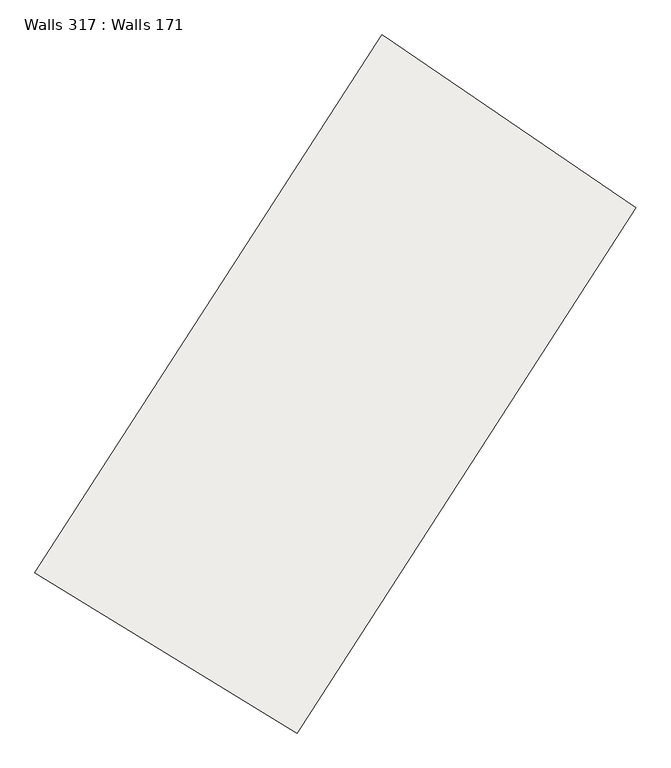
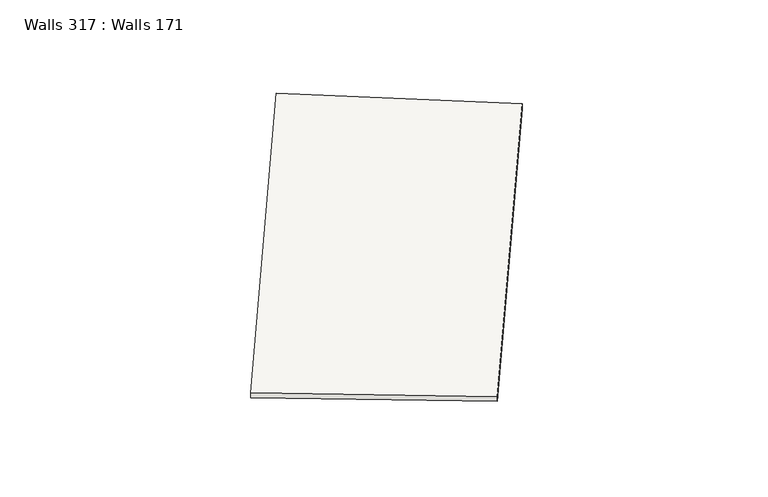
"""IFC4 building model written with IfcOpenShell, lengths in millimetres: slab geometry, Walls 317 : Walls 171."""

import ifcopenshell
import ifcopenshell.guid

model = None  # the IFC model being written
_history = None  # IfcOwnerHistory: only IFC2X3 demands one
_inside = {}  # id of a spatial element -> (the spatial element, [elements in it])
_under = {}  # id of a project, library or spatial element -> (it, [spatial elements below it])
_declared = {}  # id of a project -> (the project, [libraries it declares])
_typed = {}  # id of a type object -> (the type object, [elements of that type])
_made_of = {}  # id of a material, layer set ... -> (it, [elements and type objects made of it])


def new_model(schema):
    """Start an empty IFC model of exactly this schema.

    Asked for "IFC4X3", IfcOpenShell would pick the latest addendum, in which some entities
    have other attributes; the version numbers below select the first issue.
    IFC2X3 requires an IfcOwnerHistory on every rooted entity: one is made here for all.
    """
    global model, _history
    if schema == "IFC4X3":
        model = ifcopenshell.file(schema_version=(4, 3, 0, 0))
    else:
        model = ifcopenshell.file(schema=schema)
    _inside.clear()
    _under.clear()
    _declared.clear()
    _typed.clear()
    _made_of.clear()
    _history = None
    if model.schema == "IFC2X3":
        org = make("IfcOrganization", Name="unknown")
        user = make(
            "IfcPersonAndOrganization",
            ThePerson=make("IfcPerson", FamilyName="unknown"),
            TheOrganization=org,
        )
        app = make(
            "IfcApplication",
            ApplicationDeveloper=org,
            Version="unknown",
            ApplicationFullName="unknown",
            ApplicationIdentifier="unknown",
        )
        _history = make(
            "IfcOwnerHistory",
            OwningUser=user,
            OwningApplication=app,
            ChangeAction="ADDED",
            CreationDate=0,
        )
    return model


def make(cls, **values):
    """One entity of the class cls with the attributes given. An attribute that is None is left unset."""
    return model.create_entity(
        cls, **{name: value for name, value in values.items() if value is not None}
    )


def rooted(cls, **values):
    """An entity with a GlobalId (a new one), such as an element, a storey or a relation."""
    return make(cls, GlobalId=ifcopenshell.guid.new(), OwnerHistory=_history, **values)


def si_unit(unit_type, name, prefix=None):
    """IfcSIUnit, for example si_unit("LENGTHUNIT", "METRE", prefix="MILLI")."""
    return make("IfcSIUnit", UnitType=unit_type, Prefix=prefix, Name=name)


def assignment(units):
    """IfcUnitAssignment: the units of a project."""
    return None if units is None else make("IfcUnitAssignment", Units=units)


def point(xyz):
    """IfcCartesianPoint."""
    return None if xyz is None else make("IfcCartesianPoint", Coordinates=xyz)


def direction(xyz):
    """IfcDirection."""
    return None if xyz is None else make("IfcDirection", DirectionRatios=xyz)


def frame(location, z_axis=None, x_axis=None):
    """IfcAxis2Placement3D, a coordinate frame: its origin and axes. An axis left out is left unset."""
    return make(
        "IfcAxis2Placement3D",
        Location=point(location),
        Axis=direction(z_axis),
        RefDirection=direction(x_axis),
    )


def origin():
    """The frame at (0, 0, 0) with its axes left unset."""
    return frame((0.0, 0.0, 0.0))


def place(relative_to, where):
    """IfcLocalPlacement: puts the frame where relative to a parent placement (None: the world)."""
    return make(
        "IfcLocalPlacement", PlacementRelTo=relative_to, RelativePlacement=where
    )


def context(
    kind, dimensions, precision=None, world=None, true_north=None, identifier=None
):
    """IfcGeometricRepresentationContext, for example the 3D "Model" context."""
    return make(
        "IfcGeometricRepresentationContext",
        ContextIdentifier=identifier,
        ContextType=kind,
        CoordinateSpaceDimension=dimensions,
        Precision=precision,
        WorldCoordinateSystem=world,
        TrueNorth=true_north,
    )


def project(units=None, contexts=None):
    """IfcProject with its units and contexts."""
    return rooted(
        "IfcProject",
        Name="project",
        RepresentationContexts=contexts,
        UnitsInContext=assignment(units),
    )


def spatial(cls, under=None, at=None, **own):
    """A site, building, storey or space (cls), placed at a placement, below another one or the project."""
    s = rooted(cls, ObjectPlacement=at, **own)
    if under is not None:
        _under.setdefault(under.id(), (under, []))[1].append(s)
    return s


def shape(context_of_items, identifier, shape_type, items):
    """IfcShapeRepresentation: the items that make up one representation, for example the "Body"."""
    return make(
        "IfcShapeRepresentation",
        ContextOfItems=context_of_items,
        RepresentationIdentifier=identifier,
        RepresentationType=shape_type,
        Items=items,
    )


def source(mapping_origin, context_of_items, identifier, shape_type, items):
    """IfcRepresentationMap: a shape defined once, which mapped items show again and again."""
    return make(
        "IfcRepresentationMap",
        MappingOrigin=mapping_origin,
        MappedRepresentation=shape(context_of_items, identifier, shape_type, items),
    )


def transform(
    local_origin,
    x_axis=None,
    y_axis=None,
    z_axis=None,
    scale=None,
    scale2=None,
    scale3=None,
    uniform=True,
):
    """IfcCartesianTransformationOperator3D, or its non-uniform kind. x_axis, y_axis, z_axis: its Axis1, 2, 3."""
    if uniform:
        return make(
            "IfcCartesianTransformationOperator3D",
            Axis1=direction(x_axis),
            Axis2=direction(y_axis),
            LocalOrigin=point(local_origin),
            Scale=scale,
            Axis3=direction(z_axis),
        )
    return make(
        "IfcCartesianTransformationOperator3DnonUniform",
        Axis1=direction(x_axis),
        Axis2=direction(y_axis),
        LocalOrigin=point(local_origin),
        Scale=scale,
        Axis3=direction(z_axis),
        Scale2=scale2,
        Scale3=scale3,
    )


def mapped(mapping_source, mapping_target):
    """IfcMappedItem: shows the shape of a source again, moved by a transform."""
    return make(
        "IfcMappedItem", MappingSource=mapping_source, MappingTarget=mapping_target
    )


def made_of(thing, what):
    """Note that an element or type object is made of a material, layer set ...; save() writes the relation."""
    if what is not None:
        _made_of.setdefault(what.id(), (what, []))[1].append(thing)
    return thing


def element(
    cls,
    number,
    at=None,
    inside=None,
    cuts=None,
    type_object=None,
    material=None,
    context=None,
    identifier="Body",
    shape_type=None,
    held_by="IfcProductDefinitionShape",
    body=None,
    shapes=None,
    **own,
):
    """One element of the class cls, such as IfcWall. Its Tag is "e" and its number.

    at: its placement. inside: the storey or other place that contains it. cuts: it is an
    opening in that element (IfcRelVoidsElement). A single representation is given by context,
    identifier, shape_type and body (its items); several are given by shapes. held_by: the class
    of the entity that holds the representations. save() writes the other relations.
    """
    e = rooted(cls, Tag="e%d" % number, ObjectPlacement=at, **own)
    if body is not None:
        shapes = [shape(context, identifier, shape_type, body)]
    if shapes is not None:
        e.Representation = make(held_by, Representations=shapes)
    if inside is not None:
        _inside.setdefault(inside.id(), (inside, []))[1].append(e)
    if cuts is not None:
        rooted(
            "IfcRelVoidsElement", RelatingBuildingElement=cuts, RelatedOpeningElement=e
        )
    if type_object is not None:
        _typed.setdefault(type_object.id(), (type_object, []))[1].append(e)
    return made_of(e, material)


def aggregate(whole, parts):
    """IfcRelAggregates: a whole, such as a stair, and the parts it consists of."""
    return rooted("IfcRelAggregates", RelatingObject=whole, RelatedObjects=parts)


def save(model, path):
    """Write the relations noted so far, then the file.

    IfcRelAggregates (storeys below a building ...), IfcRelContainedInSpatialStructure (elements
    in a storey), IfcRelDefinesByType, IfcRelAssociatesMaterial and IfcRelDeclares: one each for
    every whole, place, type object, material and project.
    """
    for whole, parts in _under.values():
        aggregate(whole, parts)
    for where, things in _inside.values():
        rooted(
            "IfcRelContainedInSpatialStructure",
            RelatedElements=things,
            RelatingStructure=where,
        )
    for kind, things in _typed.values():
        rooted("IfcRelDefinesByType", RelatedObjects=things, RelatingType=kind)
    for what, things in _made_of.values():
        rooted("IfcRelAssociatesMaterial", RelatedObjects=things, RelatingMaterial=what)
    for by, libraries in _declared.values():
        rooted("IfcRelDeclares", RelatingContext=by, RelatedDefinitions=libraries)
    model.write(path)


def plane_surface(at):
    """IfcPlane: the flat surface through the origin of the frame at, square to its z axis."""
    return make("IfcPlane", Position=at)


def spline_curve(degree, points, multiplicities, knots, weights=None):
    """IfcBSplineCurveWithKnots; with weights, IfcRationalBSplineCurveWithKnots."""
    own = dict(
        Degree=degree,
        ControlPointsList=[point(p) for p in points],
        CurveForm="UNSPECIFIED",
        ClosedCurve=False,
        SelfIntersect=False,
        KnotMultiplicities=multiplicities,
        Knots=knots,
        KnotSpec="UNSPECIFIED",
    )
    if weights is None:
        return make("IfcBSplineCurveWithKnots", **own)
    return make("IfcRationalBSplineCurveWithKnots", WeightsData=weights, **own)


def spline_surface(u_degree, v_degree, points, u_multiplicities, v_multiplicities, u_knots, v_knots, weights=None):
    """IfcBSplineSurfaceWithKnots; with weights, IfcRationalBSplineSurfaceWithKnots. points: one row for each step in u."""
    own = dict(
        UDegree=u_degree,
        VDegree=v_degree,
        ControlPointsList=[[point(p) for p in row] for row in points],
        SurfaceForm="UNSPECIFIED",
        UClosed=False,
        VClosed=False,
        SelfIntersect=False,
        UMultiplicities=u_multiplicities,
        VMultiplicities=v_multiplicities,
        UKnots=u_knots,
        VKnots=v_knots,
        KnotSpec="UNSPECIFIED",
    )
    if weights is None:
        return make("IfcBSplineSurfaceWithKnots", **own)
    return make("IfcRationalBSplineSurfaceWithKnots", WeightsData=weights, **own)


def advanced_brep(points, edges, surfaces, faces):
    """IfcAdvancedBrep: a solid bounded by faces that lie on surfaces and meet in shared edges.

    An edge is (start, end): straight between two places in points (the first is 0);
    or (start, end, curve); or (start, end, curve, False) where it runs against its curve.
    A face is (place in surfaces, loops), or (place, loops, False) where it looks against
    its surface's normal. A loop lists edges by number (the first is 1), with a minus sign
    where the edge is run from its end to its start. The first loop is the outer one.
    """
    corners = [point(p) for p in points]
    vertices = [make("IfcVertexPoint", VertexGeometry=c) for c in corners]
    made = []
    for start, end, *more in edges:
        made.append(
            make(
                "IfcEdgeCurve",
                EdgeStart=vertices[start],
                EdgeEnd=vertices[end],
                EdgeGeometry=more[0] if more else make("IfcPolyline", Points=[corners[start], corners[end]]),
                SameSense=more[1] if len(more) > 1 else True,
            )
        )
    hull = []
    for where, loops, *sense in faces:
        bounds = []
        for j, loop in enumerate(loops):
            ring = [make("IfcOrientedEdge", EdgeElement=made[abs(k) - 1], Orientation=k > 0) for k in loop]
            bounds.append(
                make(
                    "IfcFaceOuterBound" if j == 0 else "IfcFaceBound",
                    Bound=make("IfcEdgeLoop", EdgeList=ring),
                    Orientation=True,
                )
            )
        hull.append(make("IfcAdvancedFace", Bounds=bounds, FaceSurface=surfaces[where], SameSense=sense[0] if sense else True))
    return make("IfcAdvancedBrep", Outer=make("IfcClosedShell", CfsFaces=hull))


def walls_317_walls_171_85d3402c(model_context):
    return source(origin(), model_context, "Body", "AdvancedBrep", [
        advanced_brep(
        [(211019.6285932, 111578.4626906, 641750.0), (214601.9373096, 109385.9608637, 641750.0), (214601.9373096, 109385.9608637, 641850.0), (211019.6285932, 111578.4626906, 641850.0), (215762.3608845, 118922.8756049, 641860.0), (215762.3608845, 118922.8756049, 641960.0), (219234.5564134, 116559.8567287, 641960.0), (219234.5564134, 116559.8567287, 641860.0)],
        [
            (0, 1),
            (1, 2),
            (2, 3),
            (3, 0),
            (4, 5),
            (5, 6),
            (6, 7),
            (7, 4),
            (5, 3, spline_curve(3, [(215762.3608845, 118922.8756049, 641960.0), (214122.594571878, 116513.419922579, 641923.333333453), (212541.068253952, 114064.329059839, 641886.666666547), (211019.6285932, 111578.4626906, 641850.0)], [4, 4], [0.0, 28.35497250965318])),
            (2, 6, spline_curve(3, [(214601.9373096, 109385.9608637, 641850.0), (216088.053329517, 111814.112259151, 641886.666666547), (217632.860960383, 114206.341974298, 641923.333333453), (219234.5564134, 116559.8567287, 641960.0)], [4, 4], [0.0, 28.35497250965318])),
            (7, 1, spline_curve(3, [(219234.5564134, 116559.8567287, 641860.0), (217632.860960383, 114206.341974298, 641823.333333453), (216088.053329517, 111814.112259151, 641786.666666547), (214601.9373096, 109385.9608637, 641750.0)], [4, 4], [0.0, 28.354972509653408])),
            (0, 4, spline_curve(3, [(211019.6285932, 111578.4626906, 641750.0), (212541.068253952, 114064.329059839, 641786.666666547), (214122.594571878, 116513.419922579, 641823.333333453), (215762.3608845, 118922.8756049, 641860.0)], [4, 4], [0.0, 28.354972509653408])),
        ],
        [
            plane_surface(frame((212810.7829514, 110482.2117771, 641800.0), z_axis=(-0.5220242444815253, -0.8529306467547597, 0.0), x_axis=(0.8529306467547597, -0.5220242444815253, 0.0))),
            plane_surface(frame((217498.458649, 117741.3661668, 641910.0), z_axis=(0.5626235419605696, 0.8267132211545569, 0.0), x_axis=(0.8267132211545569, -0.5626235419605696, 0.0))),
            spline_surface(3, 3, [[(219234.5564134, 116559.8567287, 641960.0), (217632.860960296, 114206.341974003, 641923.333333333), (216088.05332935, 111814.112259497, 641886.666666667), (214601.9373096, 109385.9608637, 641850.0)], [(218077.157903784, 117347.529687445, 641960.0), (216462.772164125, 114975.367956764, 641923.333333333), (214905.724970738, 112564.184526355, 641886.666666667), (213407.834404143, 110116.794805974, 641850.0)], [(216919.759394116, 118135.202646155, 641960.0), (215292.683367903, 115744.39393949, 641923.333333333), (213723.396612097, 113314.25679329, 641886.666666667), (212213.731498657, 110847.628748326, 641850.0)], [(215762.3608845, 118922.8756049, 641960.0), (214122.594571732, 116513.419922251, 641923.333333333), (212541.068253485, 114064.329060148, 641886.666666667), (211019.6285932, 111578.4626906, 641850.0)]], [4, 4], [4, 4], [0.0, 13.779527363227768], [0.0, 28.35497250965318]),
            spline_surface(3, 3, [[(215762.3608845, 118922.8756049, 641860.0), (214122.594571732, 116513.419922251, 641823.333333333), (212541.068253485, 114064.329060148, 641786.666666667), (211019.6285932, 111578.4626906, 641750.0)], [(216919.759394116, 118135.202646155, 641860.0), (215292.683367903, 115744.39393949, 641823.333333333), (213723.396612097, 113314.25679329, 641786.666666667), (212213.731498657, 110847.628748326, 641750.0)], [(218077.157903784, 117347.529687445, 641860.0), (216462.772164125, 114975.367956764, 641823.333333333), (214905.724970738, 112564.184526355, 641786.666666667), (213407.834404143, 110116.794805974, 641750.0)], [(219234.5564134, 116559.8567287, 641860.0), (217632.860960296, 114206.341974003, 641823.333333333), (216088.05332935, 111814.112259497, 641786.666666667), (214601.9373096, 109385.9608637, 641750.0)]], [4, 4], [4, 4], [0.0, 13.779527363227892], [0.0, 28.354972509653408]),
            spline_surface(3, 3, [[(219234.5564134, 116559.8567287, 641860.0), (217632.860960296, 114206.341974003, 641823.333333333), (216088.05332935, 111814.112259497, 641786.666666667), (214601.9373096, 109385.9608637, 641750.0)], [(219234.5564134, 116559.8567287, 641893.333333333), (217632.860960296, 114206.341974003, 641856.666666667), (216088.05332935, 111814.112259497, 641820.0), (214601.9373096, 109385.9608637, 641783.333333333)], [(219234.5564134, 116559.8567287, 641926.666666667), (217632.860960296, 114206.341974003, 641890.0), (216088.05332935, 111814.112259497, 641853.333333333), (214601.9373096, 109385.9608637, 641816.666666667)], [(219234.5564134, 116559.8567287, 641960.0), (217632.860960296, 114206.341974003, 641923.333333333), (216088.05332935, 111814.112259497, 641886.666666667), (214601.9373096, 109385.9608637, 641850.0)]], [4, 4], [4, 4], [0.0, 0.3280839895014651], [0.0, 28.021998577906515]),
            spline_surface(3, 3, [[(215762.3608845, 118922.8756049, 641960.0), (214122.594571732, 116513.419922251, 641923.333333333), (212541.068253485, 114064.329060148, 641886.666666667), (211019.6285932, 111578.4626906, 641850.0)], [(215762.3608845, 118922.8756049, 641926.666666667), (214122.594571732, 116513.419922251, 641890.0), (212541.068253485, 114064.329060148, 641853.333333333), (211019.6285932, 111578.4626906, 641816.666666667)], [(215762.3608845, 118922.8756049, 641893.333333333), (214122.594571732, 116513.419922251, 641856.666666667), (212541.068253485, 114064.329060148, 641820.0), (211019.6285932, 111578.4626906, 641783.333333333)], [(215762.3608845, 118922.8756049, 641860.0), (214122.594571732, 116513.419922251, 641823.333333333), (212541.068253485, 114064.329060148, 641786.666666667), (211019.6285932, 111578.4626906, 641750.0)]], [4, 4], [4, 4], [0.0, 0.3280839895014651], [0.0, 28.68794707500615]),
        ],
        [
            (0, [[1, 2, 3, 4]]),
            (1, [[5, 6, 7, 8]]),
            (2, [[-6, 9, -3, 10]]),
            (3, [[-8, 11, -1, 12]]),
            (4, [[-7, -10, -2, -11]]),
            (5, [[-5, -12, -4, -9]]),
        ],
    ),
    ])


if __name__ == "__main__":
    model = new_model("IFC4")
    model_context = context("Model", 3, world=origin())
    ifc_project = project(units=[si_unit("LENGTHUNIT", "METRE", prefix="MILLI")], contexts=[model_context])
    site = spatial("IfcSite", under=ifc_project)
    building = spatial("IfcBuilding", under=site)
    placement = place(None, origin())
    walls_317_walls_171_shape = walls_317_walls_171_85d3402c(model_context)
    element("IfcSlab", 1, ObjectType="Walls 317 : Walls 171", at=placement, inside=building, context=model_context, shape_type="MappedRepresentation", body=[
        mapped(walls_317_walls_171_shape, transform((0.0, 0.0, 0.0), x_axis=(1.0, 0.0, 0.0), y_axis=(0.0, 1.0, 0.0), z_axis=(0.0, 0.0, 1.0))),
    ])
    save(model, "model.ifc")
